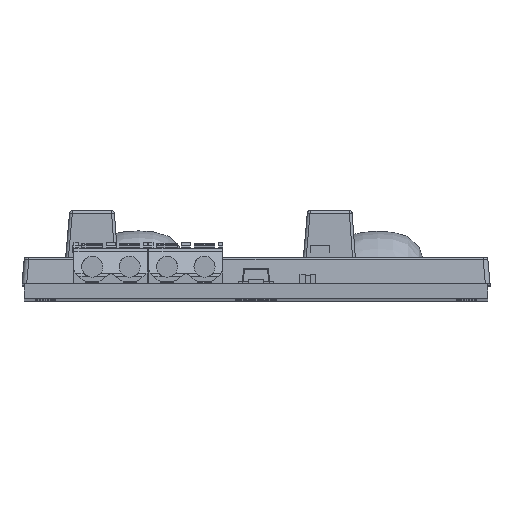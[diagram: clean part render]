
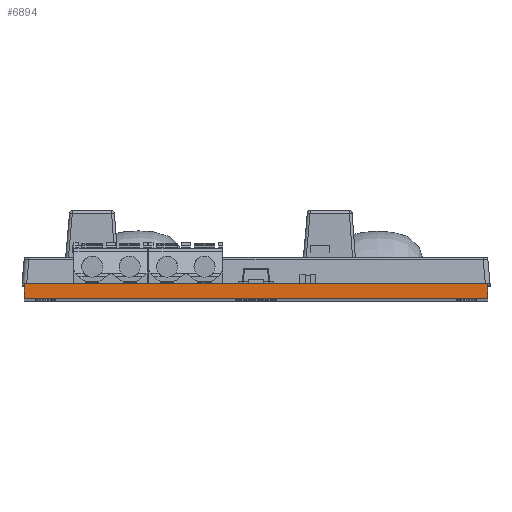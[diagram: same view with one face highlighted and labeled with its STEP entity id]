
A CAD part, top view. The second image highlights one B-rep face of the part: STEP entity #6894.
In plain terms, the highlighted planar face has unit normal (0, 0, 1).
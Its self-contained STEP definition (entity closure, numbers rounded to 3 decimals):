
#52=DIRECTION('',(1.,0.,0.));
#53=VECTOR('',#52,49.5);
#54=CARTESIAN_POINT('',(-24.75,0.,0.));
#55=LINE('',#54,#53);
#327=DIRECTION('',(0.,1.,0.));
#328=VECTOR('',#327,1.6);
#329=CARTESIAN_POINT('',(24.75,0.,0.));
#330=LINE('',#329,#328);
#334=DIRECTION('',(0.,1.,0.));
#335=VECTOR('',#334,1.6);
#336=CARTESIAN_POINT('',(-24.75,0.,0.));
#337=LINE('',#336,#335);
#362=DIRECTION('',(1.,0.,0.));
#363=VECTOR('',#362,49.5);
#364=CARTESIAN_POINT('',(-24.75,1.6,0.));
#365=LINE('',#364,#363);
#5678=CARTESIAN_POINT('',(-24.75,0.,0.));
#5680=VERTEX_POINT('',#5678);
#5681=CARTESIAN_POINT('',(24.75,0.,0.));
#5682=VERTEX_POINT('',#5681);
#5686=CARTESIAN_POINT('',(-24.75,1.6,0.));
#5688=VERTEX_POINT('',#5686);
#5689=CARTESIAN_POINT('',(24.75,1.6,0.));
#5690=VERTEX_POINT('',#5689);
#6882=CARTESIAN_POINT('',(-24.75,0.,0.));
#6883=DIRECTION('',(0.,0.,1.));
#6884=DIRECTION('',(1.,0.,0.));
#6885=AXIS2_PLACEMENT_3D('',#6882,#6883,#6884);
#6886=PLANE('',#6885);
#6887=ORIENTED_EDGE('',*,*,#6740,.F.);
#6888=ORIENTED_EDGE('',*,*,#6849,.T.);
#6890=ORIENTED_EDGE('',*,*,#6889,.T.);
#6891=ORIENTED_EDGE('',*,*,#6874,.F.);
#6892=EDGE_LOOP('',(#6887,#6888,#6890,#6891));
#6893=FACE_OUTER_BOUND('',#6892,.F.);
#6740=EDGE_CURVE('',#5680,#5682,#55,.T.);
#6849=EDGE_CURVE('',#5680,#5688,#337,.T.);
#6874=EDGE_CURVE('',#5682,#5690,#330,.T.);
#6889=EDGE_CURVE('',#5688,#5690,#365,.T.);
#6894=ADVANCED_FACE('',(#6893),#6886,.T.);
